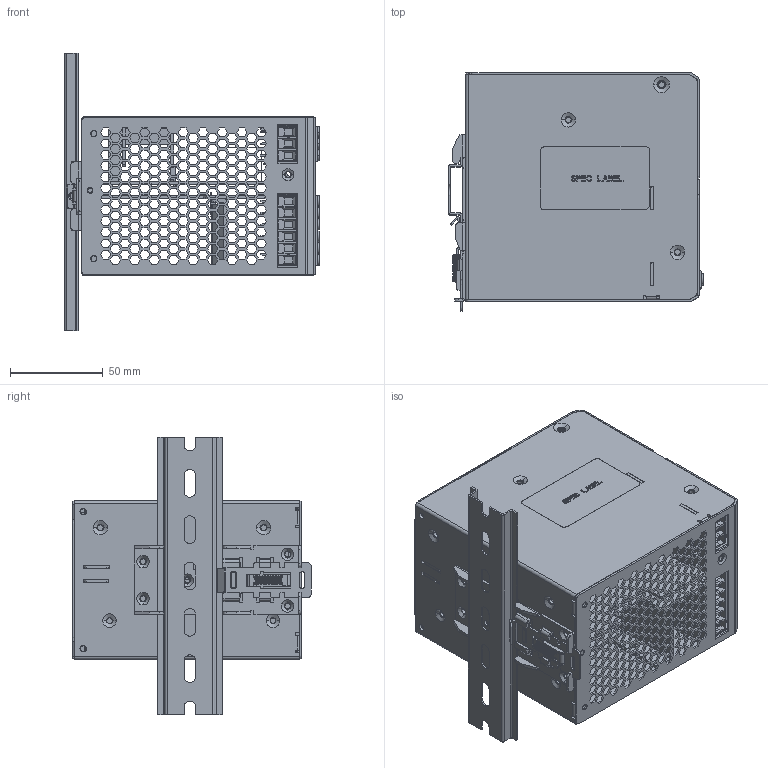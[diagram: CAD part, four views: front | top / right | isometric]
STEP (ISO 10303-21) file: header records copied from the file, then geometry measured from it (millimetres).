
FILE_DESCRIPTION((''),'2;1');
FILE_NAME('480W_ASM','2016-05-05T',('ERIC.YP.CHEN'),(''),'PRO/ENGINEER BY PARAMETRIC TECHNOLOGY CORPORATION, 2010280','PRO/ENGINEER BY PARAMETRIC TECHNOLOGY CORPORATION, 2010280','');
FILE_SCHEMA(('CONFIG_CONTROL_DESIGN'));
Products named in the file (29): CHASSIS; PWB1; HSK1; HSK2; PWB2; PRT0001; PRT0002; PRT0003; ASM0003_ASM; ASM0002_ASM; PWB3; PWB4; COVER; JH-8; MH150-635M806A302; MANIFOLD_SOLID_BREP_262416_1; MANIFOLD_SOLID_BREP_262609_1; MH150-635M804A302_A4_AF0_6_ASM__ASM; PWB5_LED; HSK3; HSK4; HSK_IN; HSK_OUT; INSULATOR_C1; RAIL_TH3515; VR; LED; SPEC_LABEL; 480W_ASM
Assembly tree (30 placements, depth 4):
  480W_ASM
    CHASSIS
    PWB1
    HSK1  x2
    HSK2
    PWB2
    ASM0002_ASM
      ASM0003_ASM
        PRT0001
        PRT0002
        PRT0003
    PWB3
    PWB4
    COVER
    JH-8  x2
    MH150-635M806A302
    MH150-635M804A302_A4_AF0_6_ASM__ASM
      MANIFOLD_SOLID_BREP_262416_1
      MANIFOLD_SOLID_BREP_262609_1
    PWB5_LED
    HSK3
    HSK4
    HSK_IN
    HSK_OUT
    INSULATOR_C1
    RAIL_TH3515
    VR
    LED
    SPEC_LABEL
Bounding box: 137.6 x 128.8 x 150 mm (x, y, z)
Volume: 200461.1 mm3; surface area: 294022.7 mm2
Topology: 27 solids, 29 shells, 6207 faces, 17884 edges, 11829 vertices
Faces by surface type: plane 5202, cylinder 856, cone 62, torus 58, bspline 29
Entity records: 203192 total; most frequent: CARTESIAN_POINT 40929, ORIENTED_EDGE 34669, DIRECTION 31073, EDGE_CURVE 17357, VECTOR 15307, LINE 15307, VERTEX_POINT 11476, AXIS2_PLACEMENT_3D 7883
